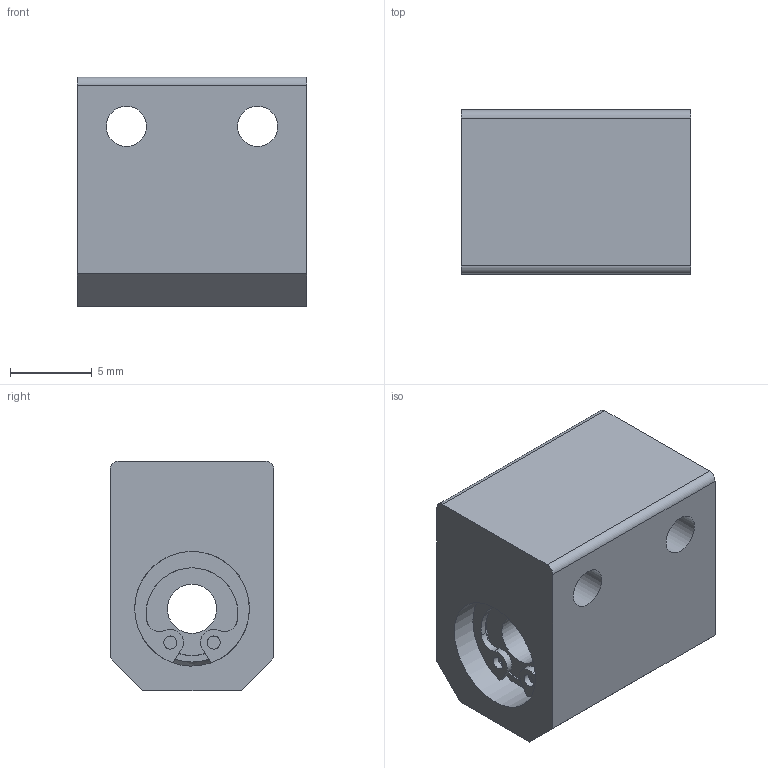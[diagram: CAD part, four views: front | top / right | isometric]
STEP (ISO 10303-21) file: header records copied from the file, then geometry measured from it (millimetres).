
FILE_DESCRIPTION((''),'2;1');
FILE_NAME('D:\製品 (図面)\カタログ用3D\リニアベアリング関連(改)\STEP形式\CH\CH3.stp','2010-01-25T09:28:05',('Tsuchiya'),(''),'Autodesk Inventor 10','Autodesk Inventor 10','');
FILE_SCHEMA(('AUTOMOTIVE_DESIGN { 1 0 10303 214 1 1 1 1 }'));
Length unit declared in the file: millimetre
Products named in the file (1): CH3
Bounding box: 14 x 10 x 14 mm (x, y, z)
Volume: 1579.7 mm3; surface area: 1280.5 mm2
Topology: 1 solids, 1 shells, 57 faces, 160 edges, 100 vertices
Faces by surface type: plane 23, bspline 20, cylinder 14
Full cylindrical faces by diameter (mm): 0.8 x2, 3 x1, 5.7 x2, 7 x2
Entity records: 1892 total; most frequent: CARTESIAN_POINT 534, DIRECTION 284, ORIENTED_EDGE 260, EDGE_CURVE 130, AXIS2_PLACEMENT_3D 116, VERTEX_POINT 86, EDGE_LOOP 86, CIRCLE 78
